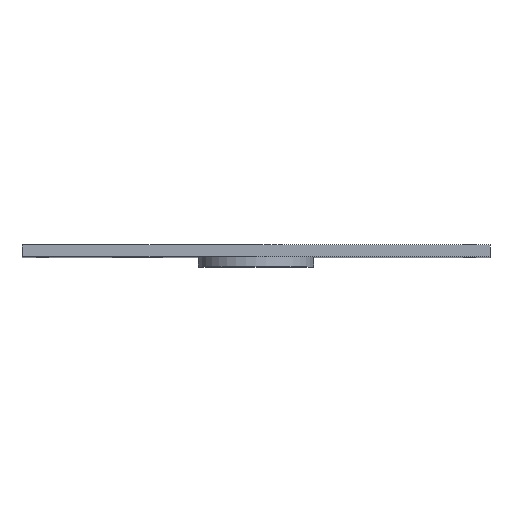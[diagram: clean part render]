
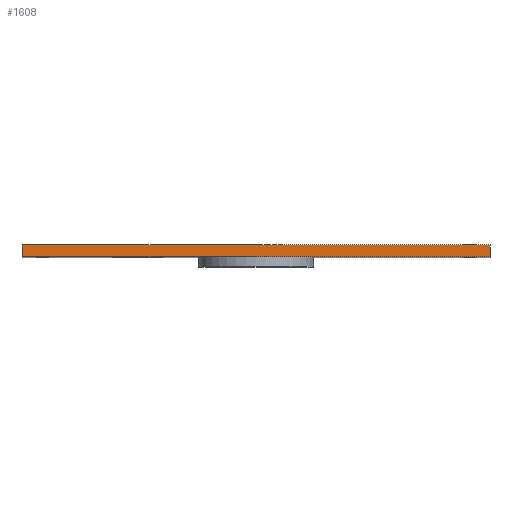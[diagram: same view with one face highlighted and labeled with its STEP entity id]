
A CAD part, top view. The second image highlights one B-rep face of the part: STEP entity #1608.
In plain terms, the highlighted planar face has unit normal (0, 0, 1).
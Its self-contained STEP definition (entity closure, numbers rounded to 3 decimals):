
#24 = VERTEX_POINT('',#25);
#25 = CARTESIAN_POINT('',(138.,53.,186.));
#32 = PLANE('',#33);
#33 = AXIS2_PLACEMENT_3D('',#34,#35,#36);
#34 = CARTESIAN_POINT('',(138.,53.,0.));
#35 = DIRECTION('',(-1.,-0.,0.));
#36 = DIRECTION('',(0.,0.,-1.));
#44 = PLANE('',#45);
#45 = AXIS2_PLACEMENT_3D('',#46,#47,#48);
#46 = CARTESIAN_POINT('',(138.,53.,0.));
#47 = DIRECTION('',(-0.,1.,0.));
#48 = DIRECTION('',(0.,0.,-1.));
#85 = VERTEX_POINT('',#86);
#86 = CARTESIAN_POINT('',(138.,56.5,186.));
#100 = PLANE('',#101);
#101 = AXIS2_PLACEMENT_3D('',#102,#103,#104);
#102 = CARTESIAN_POINT('',(138.,56.5,0.));
#103 = DIRECTION('',(-0.,1.,0.));
#104 = DIRECTION('',(0.,0.,-1.));
#112 = EDGE_CURVE('',#24,#85,#113,.T.);
#113 = SURFACE_CURVE('',#114,(#118,#125),.PCURVE_S1.);
#114 = LINE('',#115,#116);
#115 = CARTESIAN_POINT('',(138.,53.,186.));
#116 = VECTOR('',#117,1.);
#117 = DIRECTION('',(-0.,1.,0.));
#118 = PCURVE('',#32,#119);
#119 = DEFINITIONAL_REPRESENTATION('',(#120),#124);
#120 = LINE('',#121,#122);
#121 = CARTESIAN_POINT('',(-186.,-0.));
#122 = VECTOR('',#123,1.);
#123 = DIRECTION('',(-0.,-1.));
#124 = ( GEOMETRIC_REPRESENTATION_CONTEXT(2) 
PARAMETRIC_REPRESENTATION_CONTEXT() REPRESENTATION_CONTEXT('2D SPACE',''
  ) );
#125 = PCURVE('',#126,#131);
#126 = PLANE('',#127);
#127 = AXIS2_PLACEMENT_3D('',#128,#129,#130);
#128 = CARTESIAN_POINT('',(138.,53.,186.));
#129 = DIRECTION('',(0.,0.,1.));
#130 = DIRECTION('',(1.,0.,0.));
#131 = DEFINITIONAL_REPRESENTATION('',(#132),#136);
#132 = LINE('',#133,#134);
#133 = CARTESIAN_POINT('',(0.,-0.));
#134 = VECTOR('',#135,1.);
#135 = DIRECTION('',(-0.,1.));
#136 = ( GEOMETRIC_REPRESENTATION_CONTEXT(2) 
PARAMETRIC_REPRESENTATION_CONTEXT() REPRESENTATION_CONTEXT('2D SPACE',''
  ) );
#165 = EDGE_CURVE('',#24,#166,#168,.T.);
#166 = VERTEX_POINT('',#167);
#167 = CARTESIAN_POINT('',(0.,53.,186.));
#168 = SURFACE_CURVE('',#169,(#173,#180),.PCURVE_S1.);
#169 = LINE('',#170,#171);
#170 = CARTESIAN_POINT('',(138.,53.,186.));
#171 = VECTOR('',#172,1.);
#172 = DIRECTION('',(-1.,-0.,0.));
#173 = PCURVE('',#44,#174);
#174 = DEFINITIONAL_REPRESENTATION('',(#175),#179);
#175 = LINE('',#176,#177);
#176 = CARTESIAN_POINT('',(-186.,-0.));
#177 = VECTOR('',#178,1.);
#178 = DIRECTION('',(-0.,1.));
#179 = ( GEOMETRIC_REPRESENTATION_CONTEXT(2) 
PARAMETRIC_REPRESENTATION_CONTEXT() REPRESENTATION_CONTEXT('2D SPACE',''
  ) );
#180 = PCURVE('',#126,#181);
#181 = DEFINITIONAL_REPRESENTATION('',(#182),#186);
#182 = LINE('',#183,#184);
#183 = CARTESIAN_POINT('',(0.,-0.));
#184 = VECTOR('',#185,1.);
#185 = DIRECTION('',(-1.,0.));
#186 = ( GEOMETRIC_REPRESENTATION_CONTEXT(2) 
PARAMETRIC_REPRESENTATION_CONTEXT() REPRESENTATION_CONTEXT('2D SPACE',''
  ) );
#202 = PLANE('',#203);
#203 = AXIS2_PLACEMENT_3D('',#204,#205,#206);
#204 = CARTESIAN_POINT('',(0.,53.,0.));
#205 = DIRECTION('',(-1.,-0.,0.));
#206 = DIRECTION('',(0.,0.,-1.));
#1608 = ADVANCED_FACE('',(#1609),#126,.T.);
#1609 = FACE_BOUND('',#1610,.F.);
#1610 = EDGE_LOOP('',(#1611,#1612,#1613,#1636));
#1611 = ORIENTED_EDGE('',*,*,#112,.F.);
#1612 = ORIENTED_EDGE('',*,*,#165,.T.);
#1613 = ORIENTED_EDGE('',*,*,#1614,.T.);
#1614 = EDGE_CURVE('',#166,#1615,#1617,.T.);
#1615 = VERTEX_POINT('',#1616);
#1616 = CARTESIAN_POINT('',(0.,56.5,186.));
#1617 = SURFACE_CURVE('',#1618,(#1622,#1629),.PCURVE_S1.);
#1618 = LINE('',#1619,#1620);
#1619 = CARTESIAN_POINT('',(0.,53.,186.));
#1620 = VECTOR('',#1621,1.);
#1621 = DIRECTION('',(-0.,1.,0.));
#1622 = PCURVE('',#126,#1623);
#1623 = DEFINITIONAL_REPRESENTATION('',(#1624),#1628);
#1624 = LINE('',#1625,#1626);
#1625 = CARTESIAN_POINT('',(-138.,0.));
#1626 = VECTOR('',#1627,1.);
#1627 = DIRECTION('',(-0.,1.));
#1628 = ( GEOMETRIC_REPRESENTATION_CONTEXT(2) 
PARAMETRIC_REPRESENTATION_CONTEXT() REPRESENTATION_CONTEXT('2D SPACE',''
  ) );
#1629 = PCURVE('',#202,#1630);
#1630 = DEFINITIONAL_REPRESENTATION('',(#1631),#1635);
#1631 = LINE('',#1632,#1633);
#1632 = CARTESIAN_POINT('',(-186.,-0.));
#1633 = VECTOR('',#1634,1.);
#1634 = DIRECTION('',(-0.,-1.));
#1635 = ( GEOMETRIC_REPRESENTATION_CONTEXT(2) 
PARAMETRIC_REPRESENTATION_CONTEXT() REPRESENTATION_CONTEXT('2D SPACE',''
  ) );
#1636 = ORIENTED_EDGE('',*,*,#1637,.F.);
#1637 = EDGE_CURVE('',#85,#1615,#1638,.T.);
#1638 = SURFACE_CURVE('',#1639,(#1643,#1650),.PCURVE_S1.);
#1639 = LINE('',#1640,#1641);
#1640 = CARTESIAN_POINT('',(138.,56.5,186.));
#1641 = VECTOR('',#1642,1.);
#1642 = DIRECTION('',(-1.,-0.,0.));
#1643 = PCURVE('',#126,#1644);
#1644 = DEFINITIONAL_REPRESENTATION('',(#1645),#1649);
#1645 = LINE('',#1646,#1647);
#1646 = CARTESIAN_POINT('',(0.,3.5));
#1647 = VECTOR('',#1648,1.);
#1648 = DIRECTION('',(-1.,0.));
#1649 = ( GEOMETRIC_REPRESENTATION_CONTEXT(2) 
PARAMETRIC_REPRESENTATION_CONTEXT() REPRESENTATION_CONTEXT('2D SPACE',''
  ) );
#1650 = PCURVE('',#100,#1651);
#1651 = DEFINITIONAL_REPRESENTATION('',(#1652),#1656);
#1652 = LINE('',#1653,#1654);
#1653 = CARTESIAN_POINT('',(-186.,-0.));
#1654 = VECTOR('',#1655,1.);
#1655 = DIRECTION('',(-0.,1.));
#1656 = ( GEOMETRIC_REPRESENTATION_CONTEXT(2) 
PARAMETRIC_REPRESENTATION_CONTEXT() REPRESENTATION_CONTEXT('2D SPACE',''
  ) );
